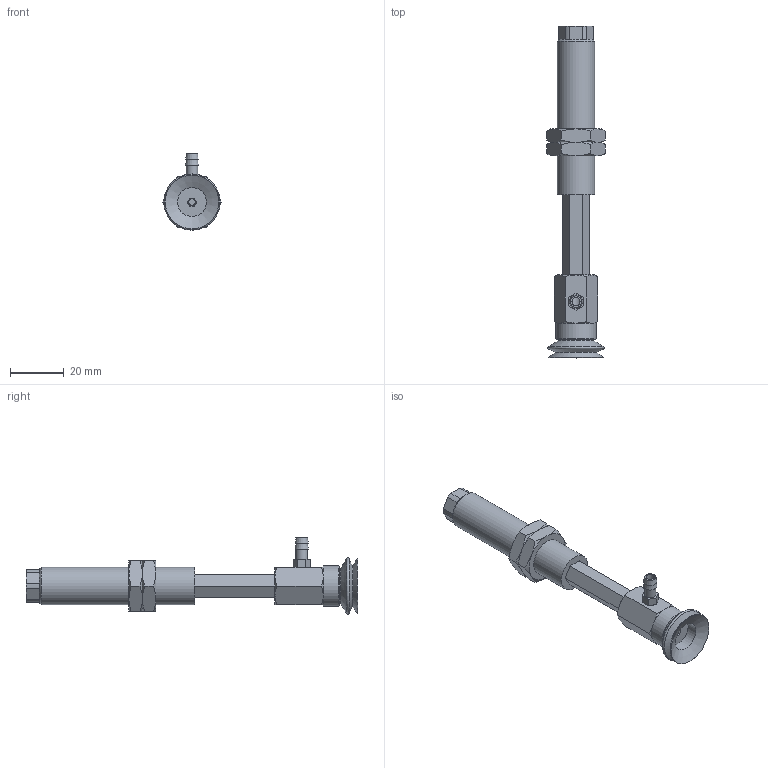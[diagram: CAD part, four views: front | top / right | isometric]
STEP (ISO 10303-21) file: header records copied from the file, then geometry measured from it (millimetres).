
FILE_DESCRIPTION(('STEP AP203'),'1');
FILE_NAME('-T.stp','2025-04-24T07:04:34',(' '),(' '),'Spatial InterOp 3D',' ',' ');
FILE_SCHEMA(('CONFIG_CONTROL_DESIGN'));
Length unit declared in the file: millimetre
Products named in the file (8): BNABPJYH-20-30-※-T; Adapter-20-NAPJ; CONNECTOR_H-20-30; NAPJH-20-30-NUT; NAPJTH-20-30-FBODY; NAPJTH-20-30-MBODY; BPJG-20-※; T
Assembly tree (8 placements, depth 2):
  BNABPJYH-20-30-※-T
    Adapter-20-NAPJ
    CONNECTOR_H-20-30
    NAPJH-20-30-NUT  x2
    NAPJTH-20-30-FBODY
    NAPJTH-20-30-MBODY
    BPJG-20-※
    T
Bounding box: 21.94 x 124 x 28.5 mm (x, y, z)
Volume: 17447.6 mm3; surface area: 14079.2 mm2
Topology: 8 solids, 8 shells, 171 faces, 375 edges, 232 vertices
Faces by surface type: plane 84, cone 57, cylinder 23, torus 7
Full cylindrical faces by diameter (mm): 2.5 x1, 3 x2, 4.134 x3, 4.3 x1, 4.6 x1, 5 x3, 10.8 x1, 11 x1, 13.188 x2, 14 x1, 15 x1
Entity records: 4464 total; most frequent: CARTESIAN_POINT 999, DIRECTION 640, ORIENTED_EDGE 558, EDGE_CURVE 279, AXIS2_PLACEMENT_3D 256, EDGE_LOOP 214, VERTEX_POINT 197, FACE_OUTER_BOUND 171
